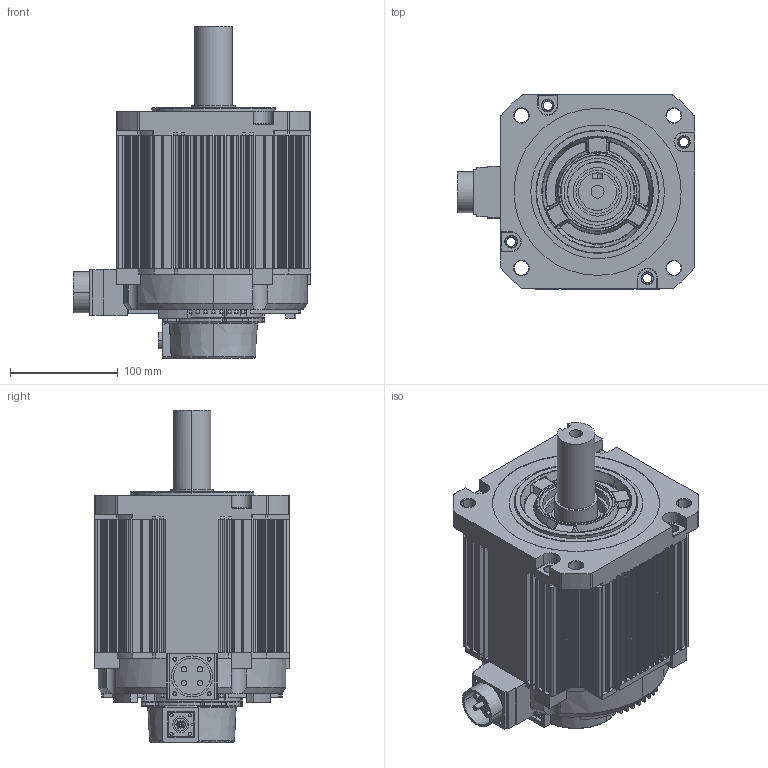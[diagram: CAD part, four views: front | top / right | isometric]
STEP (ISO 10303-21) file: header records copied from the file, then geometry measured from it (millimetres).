
FILE_DESCRIPTION(('CATIA V5 STEP Exchange'),'2;1');
FILE_NAME('F:\公司\180- 5对极\180A-27015\3D\180AST-28415HB\180AST-28415HB-ZZP.stp','2021-08-17T06:04:44+00:00',('none'),('none'),'CATIA Version 5 Release 20 GA (IN-10)','CATIA V5 STEP AP203','none');
FILE_SCHEMA(('CONFIG_CONTROL_DESIGN'));
Products named in the file (1): 180AST-28415HB-ZZP
Bounding box: 220 x 180 x 308 mm (x, y, z)
Volume: 2654656.8 mm3; surface area: 703546.4 mm2
Topology: 3 solids, 3 shells, 2626 faces, 6739 edges, 4203 vertices
Faces by surface type: cylinder 1132, plane 946, torus 279, bspline 162, sphere 74, cone 33
Entity records: 81635 total; most frequent: CARTESIAN_POINT 23255, ORIENTED_EDGE 13380, DIRECTION 9511, EDGE_CURVE 6690, AXIS2_PLACEMENT_3D 4718, VERTEX_POINT 4203, VECTOR 3097, LINE 3097
